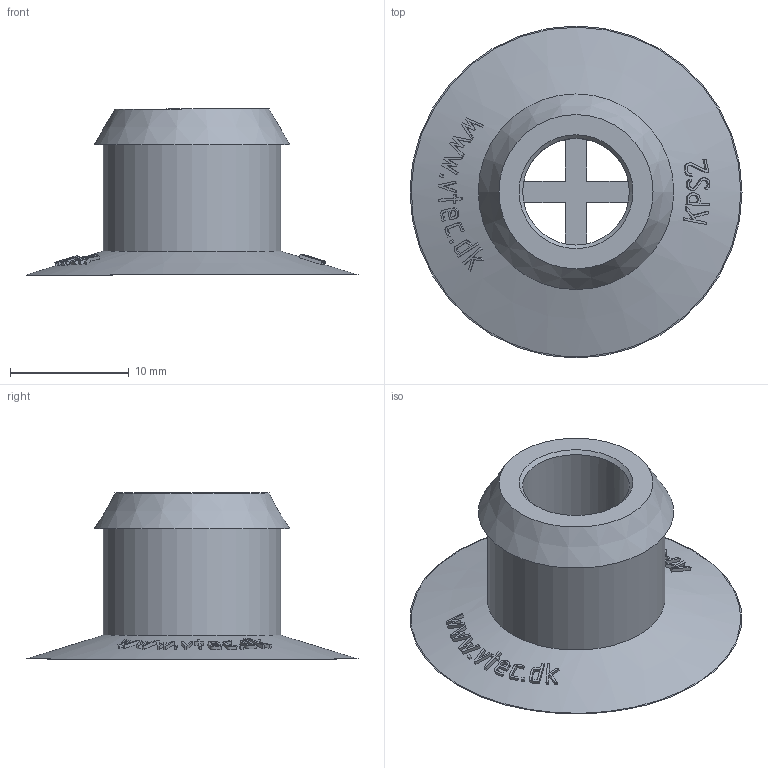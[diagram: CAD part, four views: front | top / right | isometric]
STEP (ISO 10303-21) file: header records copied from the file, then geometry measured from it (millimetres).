
FILE_DESCRIPTION( ( 'STEP AP203' ), '1' );
FILE_NAME( 'C:/撲啗紫賊-02/3D-蘋驍煎斜/Vacuum Pad/KPS series/KPS-2.stp', '2006-04-24T10:58:52', ( ' ' ), ( ' ' ), 'XStep 1.0', ' ', ' ' );
FILE_SCHEMA( ( 'CONFIG_CONTROL_DESIGN) ( )' ) );
Length unit declared in the file: metre
Products named in the file (1): 1
Bounding box: 28 x 28 x 14 mm (x, y, z)
Volume: 1779.7 mm3; surface area: 2314.4 mm2
Topology: 1 solids, 1 shells, 230 faces, 620 edges, 413 vertices
Faces by surface type: bspline 132, cylinder 50, plane 26, cone 22
Full cylindrical faces by diameter (mm): 9 x1, 15 x1
Entity records: 12080 total; most frequent: CARTESIAN_POINT 7209, ORIENTED_EDGE 1222, EDGE_CURVE 611, DIRECTION 599, VERTEX_POINT 410, B_SPLINE_CURVE_WITH_KNOTS 330, EDGE_LOOP 265, FACE_OUTER_BOUND 232
